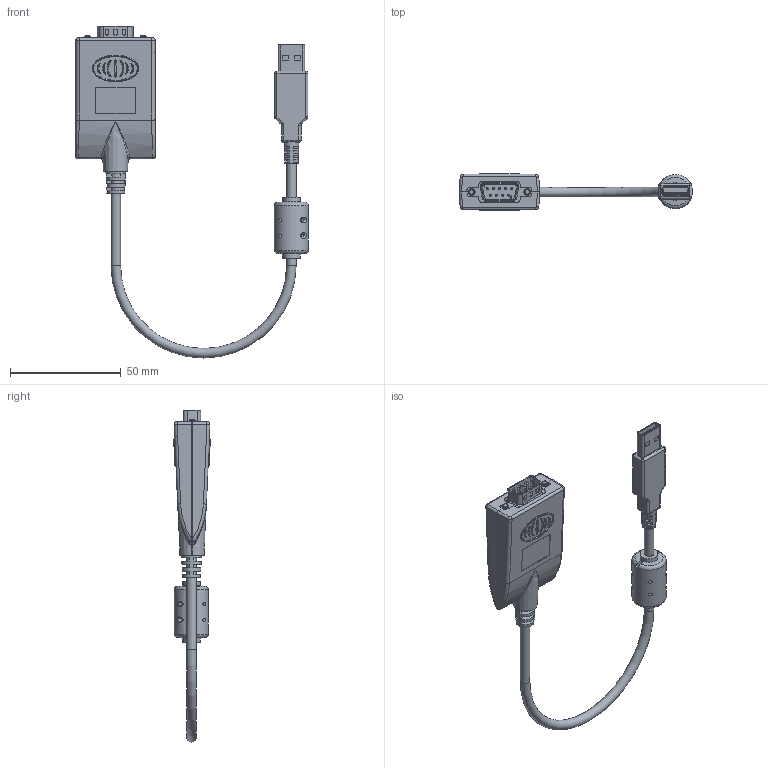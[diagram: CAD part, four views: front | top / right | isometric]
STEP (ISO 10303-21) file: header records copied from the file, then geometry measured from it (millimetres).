
FILE_DESCRIPTION(/* description */ (''),/* implementation_level */ '2;1');
FILE_NAME(/* name */ '/Users/leo/Desktop/Coolgear May/GM-FTDI-A12/GM-FTDI-A12 Model3D LPV1.step',/* time_stamp */ '2021-06-03T10:01:44-04:00',/* author */ (''),/* organization */ (''),/* preprocessor_version */ 'ST-DEVELOPER v18.1',/* originating_system */ 'Autodesk Translation Framework v10.9.0.1377',/* authorisation */ '');
FILE_SCHEMA (('AUTOMOTIVE_DESIGN { 1 0 10303 214 3 1 1 }'));
Products named in the file (1): FusionComponent
Bounding box: 104.96 x 16.51 x 149.61 mm (x, y, z)
Volume: 19855.1 mm3; surface area: 26615.6 mm2
Topology: 2 solids, 2 shells, 1183 faces, 3109 edges, 1982 vertices
Faces by surface type: plane 574, cylinder 306, bspline 170, torus 53, cone 48, sphere 32
Full cylindrical faces by diameter (mm): 0.635 x9, 0.991 x9, 1.4 x8, 1.524 x9, 2.02 x6, 2.845 x4, 3 x1, 3.048 x2, 4.3 x5, 5.563 x2, 8 x2, 9.666 x1, 10.066 x1, 15.4 x1
Entity records: 47426 total; most frequent: CARTESIAN_POINT 19194, ORIENTED_EDGE 6150, DIRECTION 5501, EDGE_CURVE 3075, AXIS2_PLACEMENT_3D 1998, VERTEX_POINT 1982, LINE 1505, VECTOR 1505
